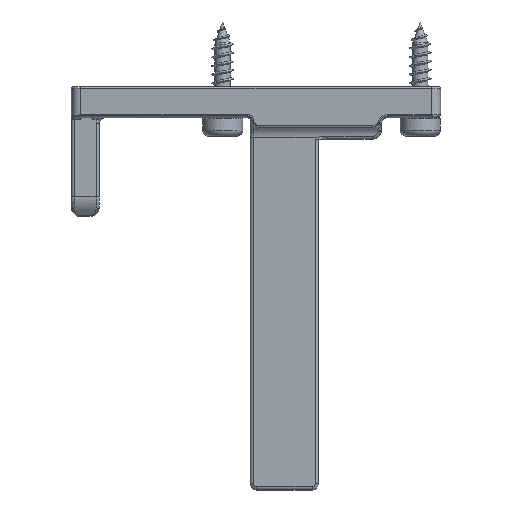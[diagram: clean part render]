
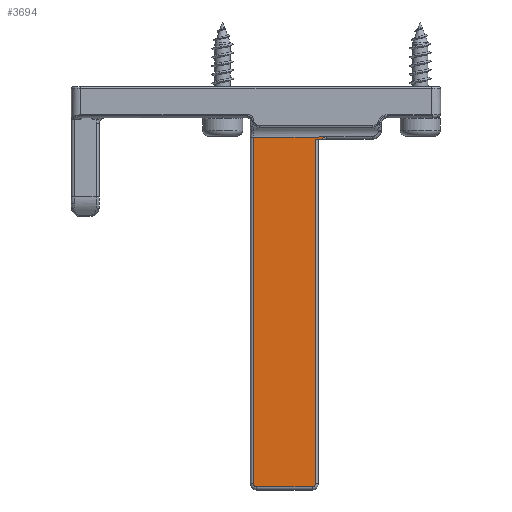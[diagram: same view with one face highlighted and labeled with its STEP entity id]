
A CAD part, left-side view. The second image highlights one B-rep face of the part: STEP entity #3694.
In plain terms, the highlighted planar face has unit normal (-1, 0, 0).
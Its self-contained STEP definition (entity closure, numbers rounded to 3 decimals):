
#70 = ORIENTED_EDGE ( 'NONE', *, *, #6279, .T. ) ;
#621 = CARTESIAN_POINT ( 'NONE',  ( -2.55, 7., 55.039 ) ) ;
#755 = ORIENTED_EDGE ( 'NONE', *, *, #11339, .T. ) ;
#812 = DIRECTION ( 'NONE',  ( -1., 0., 0. ) ) ;
#955 = VERTEX_POINT ( 'NONE', #10180 ) ;
#1169 = EDGE_CURVE ( 'NONE', #955, #4070, #3334, .T. ) ;
#1276 = ORIENTED_EDGE ( 'NONE', *, *, #12716, .T. ) ;
#1346 = CARTESIAN_POINT ( 'NONE',  ( -2.55, 7.5, 55.039 ) ) ;
#1478 = VERTEX_POINT ( 'NONE', #9301 ) ;
#1656 = CARTESIAN_POINT ( 'NONE',  ( -2.55, -3., -13.8 ) ) ;
#1773 = CARTESIAN_POINT ( 'NONE',  ( -2.55, -3., 42. ) ) ;
#2234 = VECTOR ( 'NONE', #3923, 1000. ) ;
#2247 = CARTESIAN_POINT ( 'NONE',  ( -2.55, 7., -13.8 ) ) ;
#2309 = VERTEX_POINT ( 'NONE', #1773 ) ;
#2353 = CARTESIAN_POINT ( 'NONE',  ( -2.55, 7.5, 42.42 ) ) ;
#2427 = DIRECTION ( 'NONE',  ( 0., 1., 0. ) ) ;
#2483 = VERTEX_POINT ( 'NONE', #8711 ) ;
#2674 = DIRECTION ( 'NONE',  ( 0., 1., 0. ) ) ;
#3068 = CARTESIAN_POINT ( 'NONE',  ( -2.55, -5., 41.5 ) ) ;
#3069 = LINE ( 'NONE', #9231, #11830 ) ;
#3073 = DIRECTION ( 'NONE',  ( -1., 0., 0. ) ) ;
#3334 = LINE ( 'NONE', #2353, #8337 ) ;
#3496 = VERTEX_POINT ( 'NONE', #5163 ) ;
#3666 = ORIENTED_EDGE ( 'NONE', *, *, #1169, .T. ) ;
#3694 = ADVANCED_FACE ( 'NONE', ( #3899 ), #4586, .F. ) ;
#3730 = DIRECTION ( 'NONE',  ( 0., -1., 0. ) ) ;
#3899 = FACE_OUTER_BOUND ( 'NONE', #12887, .T. ) ;
#3923 = DIRECTION ( 'NONE',  ( 0., 0., 1. ) ) ;
#4070 = VERTEX_POINT ( 'NONE', #10863 ) ;
#4155 = DIRECTION ( 'NONE',  ( 0., 1., 0. ) ) ;
#4196 = CARTESIAN_POINT ( 'NONE',  ( -2.55, -2.5, -14.3 ) ) ;
#4316 = CIRCLE ( 'NONE', #10181, 0.5 ) ;
#4471 = VECTOR ( 'NONE', #8130, 1000. ) ;
#4586 = PLANE ( 'NONE',  #4864 ) ;
#4672 = LINE ( 'NONE', #7016, #6550 ) ;
#4697 = ORIENTED_EDGE ( 'NONE', *, *, #13762, .T. ) ;
#4801 = CARTESIAN_POINT ( 'NONE',  ( -2.55, -3.485, 42.322 ) ) ;
#4810 = LINE ( 'NONE', #10509, #2234 ) ;
#4864 = AXIS2_PLACEMENT_3D ( 'NONE', #1346, #9003, #2427 ) ;
#5159 = AXIS2_PLACEMENT_3D ( 'NONE', #3068, #10751, #4155 ) ;
#5163 = CARTESIAN_POINT ( 'NONE',  ( -2.55, -4.134, 42. ) ) ;
#5364 = CARTESIAN_POINT ( 'NONE',  ( -2.55, 6.5, -14.3 ) ) ;
#5774 = B_SPLINE_CURVE_WITH_KNOTS ( 'NONE', 3,
 ( #13541, #5864, #11383, #4801 ),
 .UNSPECIFIED., .F., .F.,
 ( 4, 4 ),
 ( 0., 0.001 ),
 .UNSPECIFIED. ) ;
#5864 = CARTESIAN_POINT ( 'NONE',  ( -2.55, -3.878, 42.42 ) ) ;
#5894 = VERTEX_POINT ( 'NONE', #1656 ) ;
#5895 = CIRCLE ( 'NONE', #5159, 1. ) ;
#5962 = EDGE_CURVE ( 'NONE', #12930, #5894, #4316, .T. ) ;
#6099 = DIRECTION ( 'NONE',  ( 0., 0., -1. ) ) ;
#6279 = EDGE_CURVE ( 'NONE', #8370, #12930, #9976, .T. ) ;
#6550 = VECTOR ( 'NONE', #3730, 1000. ) ;
#6819 = ORIENTED_EDGE ( 'NONE', *, *, #7190, .T. ) ;
#7016 = CARTESIAN_POINT ( 'NONE',  ( -2.55, 7.5, 42. ) ) ;
#7190 = EDGE_CURVE ( 'NONE', #5894, #2309, #4810, .T. ) ;
#7365 = CARTESIAN_POINT ( 'NONE',  ( -2.55, -2.5, -13.8 ) ) ;
#7466 = ORIENTED_EDGE ( 'NONE', *, *, #5962, .T. ) ;
#8130 = DIRECTION ( 'NONE',  ( 0., -1., 0. ) ) ;
#8337 = VECTOR ( 'NONE', #12301, 1000. ) ;
#8370 = VERTEX_POINT ( 'NONE', #5364 ) ;
#8496 = DIRECTION ( 'NONE',  ( 0., 1., 0. ) ) ;
#8711 = CARTESIAN_POINT ( 'NONE',  ( -2.55, -3.485, 42.322 ) ) ;
#9003 = DIRECTION ( 'NONE',  ( 1., 0., 0. ) ) ;
#9231 = CARTESIAN_POINT ( 'NONE',  ( -2.55, 7.5, 42.322 ) ) ;
#9301 = CARTESIAN_POINT ( 'NONE',  ( -2.55, 7., 42.322 ) ) ;
#9636 = CARTESIAN_POINT ( 'NONE',  ( -2.55, 6.5, -13.8 ) ) ;
#9976 = LINE ( 'NONE', #13614, #4471 ) ;
#10180 = CARTESIAN_POINT ( 'NONE',  ( -2.55, -4.609, 42.42 ) ) ;
#10181 = AXIS2_PLACEMENT_3D ( 'NONE', #7365, #812, #8496 ) ;
#10206 = VERTEX_POINT ( 'NONE', #2247 ) ;
#10213 = ORIENTED_EDGE ( 'NONE', *, *, #12015, .T. ) ;
#10509 = CARTESIAN_POINT ( 'NONE',  ( -2.55, -3., 55.039 ) ) ;
#10751 = DIRECTION ( 'NONE',  ( 1., 0., 0. ) ) ;
#10756 = DIRECTION ( 'NONE',  ( 0., 1., 0. ) ) ;
#10863 = CARTESIAN_POINT ( 'NONE',  ( -2.55, -4.08, 42.42 ) ) ;
#11339 = EDGE_CURVE ( 'NONE', #2483, #1478, #3069, .T. ) ;
#11383 = CARTESIAN_POINT ( 'NONE',  ( -2.55, -3.676, 42.387 ) ) ;
#11830 = VECTOR ( 'NONE', #2674, 1000. ) ;
#12015 = EDGE_CURVE ( 'NONE', #3496, #955, #5895, .T. ) ;
#12109 = ORIENTED_EDGE ( 'NONE', *, *, #12256, .T. ) ;
#12243 = CIRCLE ( 'NONE', #13354, 0.5 ) ;
#12256 = EDGE_CURVE ( 'NONE', #1478, #10206, #12920, .T. ) ;
#12301 = DIRECTION ( 'NONE',  ( 0., 1., 0. ) ) ;
#12589 = VECTOR ( 'NONE', #6099, 1000. ) ;
#12665 = ORIENTED_EDGE ( 'NONE', *, *, #13206, .T. ) ;
#12716 = EDGE_CURVE ( 'NONE', #2309, #3496, #4672, .T. ) ;
#12887 = EDGE_LOOP ( 'NONE', ( #755, #12109, #4697, #70, #7466, #6819, #1276, #10213, #3666, #12665 ) ) ;
#12920 = LINE ( 'NONE', #621, #12589 ) ;
#12930 = VERTEX_POINT ( 'NONE', #4196 ) ;
#13206 = EDGE_CURVE ( 'NONE', #4070, #2483, #5774, .T. ) ;
#13354 = AXIS2_PLACEMENT_3D ( 'NONE', #9636, #3073, #10756 ) ;
#13541 = CARTESIAN_POINT ( 'NONE',  ( -2.55, -4.08, 42.42 ) ) ;
#13614 = CARTESIAN_POINT ( 'NONE',  ( -2.55, -2.5, -14.3 ) ) ;
#13762 = EDGE_CURVE ( 'NONE', #10206, #8370, #12243, .T. ) ;
